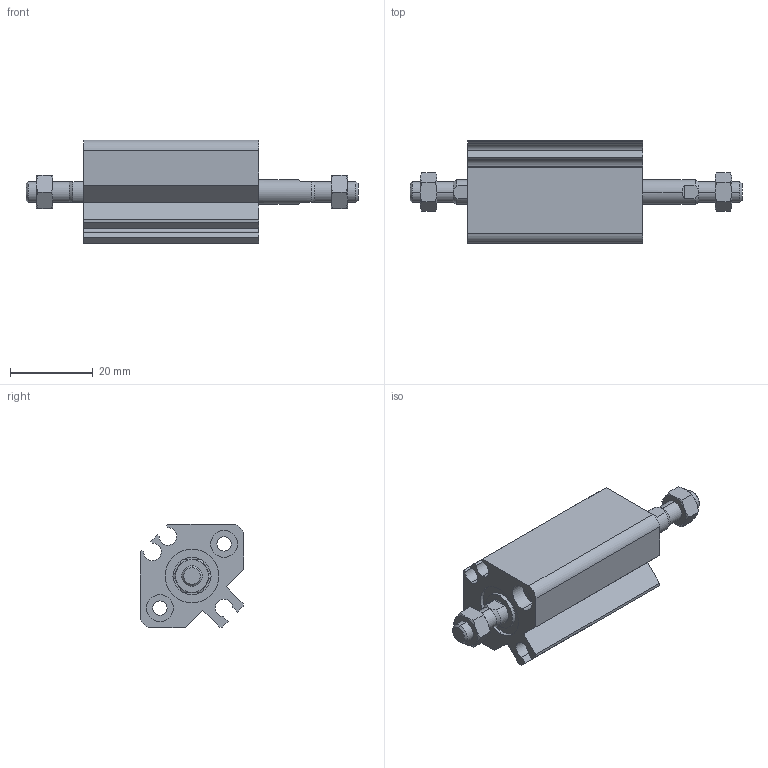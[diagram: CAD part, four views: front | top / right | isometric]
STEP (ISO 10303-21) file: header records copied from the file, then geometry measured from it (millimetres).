
FILE_DESCRIPTION (( 'STEP AP203' ), '1' );
FILE_NAME ('CCMB12-10M-P.STEP', '2020-08-10T10:55:40', ( '' ), ( '' ), 'SwSTEP 2.0', 'SolidWorks 2019', '' );
FILE_SCHEMA (( 'CONFIG_CONTROL_DESIGN' ));
Length unit declared in the file: millimetre
Products named in the file (1): CCMB12-10M-P
Bounding box: 80.4 x 25 x 25 mm (x, y, z)
Volume: 20245.8 mm3; surface area: 11238.5 mm2
Topology: 4 solids, 4 shells, 161 faces, 369 edges, 230 vertices
Faces by surface type: plane 63, cylinder 54, cone 44
Entity records: 4994 total; most frequent: CARTESIAN_POINT 1273, DIRECTION 777, ORIENTED_EDGE 738, EDGE_CURVE 369, AXIS2_PLACEMENT_3D 310, VERTEX_POINT 230, EDGE_LOOP 185, ADVANCED_FACE 161
